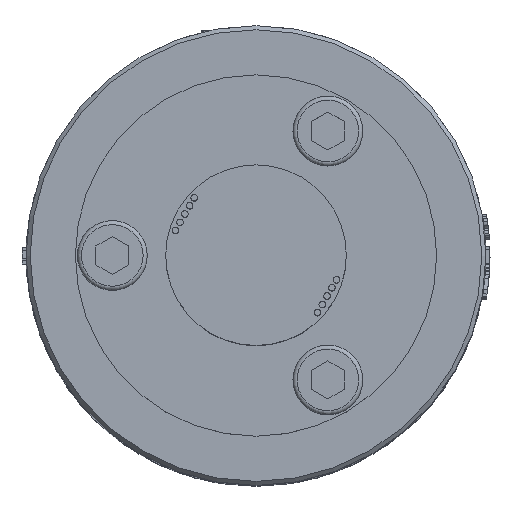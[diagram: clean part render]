
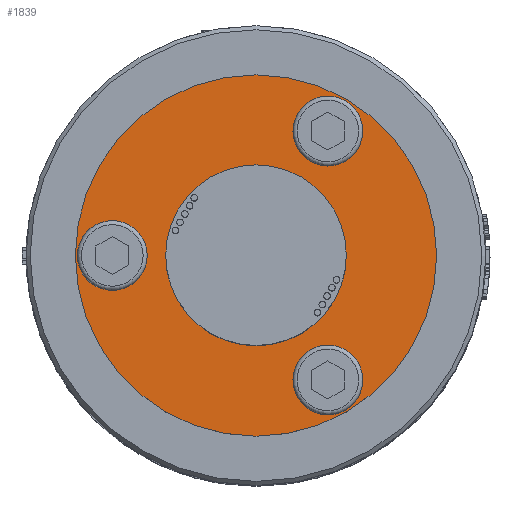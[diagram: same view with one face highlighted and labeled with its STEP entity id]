
A CAD part, top view. The second image highlights one B-rep face of the part: STEP entity #1839.
In plain terms, the highlighted planar face has unit normal (0, 0, 1).
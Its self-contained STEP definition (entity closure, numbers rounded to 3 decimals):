
#389=FACE_BOUND('',#4712,.T.);
#390=FACE_BOUND('',#4713,.T.);
#391=FACE_BOUND('',#4714,.T.);
#392=FACE_BOUND('',#4715,.T.);
#393=FACE_BOUND('',#4716,.T.);
#1298=CIRCLE('',#21957,4.25);
#1300=CIRCLE('',#21968,4.25);
#1303=CIRCLE('',#21981,4.25);
#1327=CIRCLE('',#22038,11.);
#1328=CIRCLE('',#22040,22.);
#1839=ADVANCED_FACE('',(#389,#390,#391,#392,#393),#2807,.T.);
#2807=PLANE('',#22041);
#4712=EDGE_LOOP('',(#10085));
#4713=EDGE_LOOP('',(#10086));
#4714=EDGE_LOOP('',(#10087));
#4715=EDGE_LOOP('',(#10088));
#4716=EDGE_LOOP('',(#10089));
#10085=ORIENTED_EDGE('',*,*,#17145,.F.);
#10086=ORIENTED_EDGE('',*,*,#17159,.F.);
#10087=ORIENTED_EDGE('',*,*,#17180,.F.);
#10088=ORIENTED_EDGE('',*,*,#17223,.T.);
#10089=ORIENTED_EDGE('',*,*,#17222,.F.);
#14705=VERTEX_POINT('',#33754);
#14713=VERTEX_POINT('',#33785);
#14728=VERTEX_POINT('',#33831);
#14764=VERTEX_POINT('',#33942);
#14765=VERTEX_POINT('',#33945);
#17145=EDGE_CURVE('',#14705,#14705,#1298,.T.);
#17159=EDGE_CURVE('',#14713,#14713,#1300,.T.);
#17180=EDGE_CURVE('',#14728,#14728,#1303,.T.);
#17222=EDGE_CURVE('',#14764,#14764,#1327,.T.);
#17223=EDGE_CURVE('',#14765,#14765,#1328,.T.);
#21957=AXIS2_PLACEMENT_3D('',#33753,#23897,#23898);
#21968=AXIS2_PLACEMENT_3D('',#33784,#23931,#23932);
#21981=AXIS2_PLACEMENT_3D('',#33830,#23975,#23976);
#22038=AXIS2_PLACEMENT_3D('',#33941,#24107,#24108);
#22040=AXIS2_PLACEMENT_3D('',#33944,#24111,#24112);
#22041=AXIS2_PLACEMENT_3D('',#33946,#24113,#24114);
#23897=DIRECTION('',(0.,0.,1.));
#23898=DIRECTION('',(-0.866,0.5,0.));
#23931=DIRECTION('',(0.,0.,1.));
#23932=DIRECTION('',(-0.866,0.5,0.));
#23975=DIRECTION('',(0.,0.,1.));
#23976=DIRECTION('',(-0.866,0.5,0.));
#24107=DIRECTION('',(0.,0.,1.));
#24108=DIRECTION('',(0.866,-0.5,0.));
#24111=DIRECTION('',(0.,0.,1.));
#24112=DIRECTION('',(0.866,-0.5,0.));
#24113=DIRECTION('',(0.,0.,1.));
#24114=DIRECTION('',(-0.866,0.5,0.));
#33753=CARTESIAN_POINT('',(8.75,-15.155,82.5));
#33754=CARTESIAN_POINT('',(5.069,-13.03,82.5));
#33784=CARTESIAN_POINT('',(8.75,15.155,82.5));
#33785=CARTESIAN_POINT('',(5.069,17.28,82.5));
#33830=CARTESIAN_POINT('',(-17.5,0.,82.5));
#33831=CARTESIAN_POINT('',(-21.181,2.125,82.5));
#33941=CARTESIAN_POINT('',(0.,0.,82.5));
#33942=CARTESIAN_POINT('',(9.526,-5.5,82.5));
#33944=CARTESIAN_POINT('',(0.,0.,82.5));
#33945=CARTESIAN_POINT('',(19.053,-11.,82.5));
#33946=CARTESIAN_POINT('',(0.,0.,82.5));
